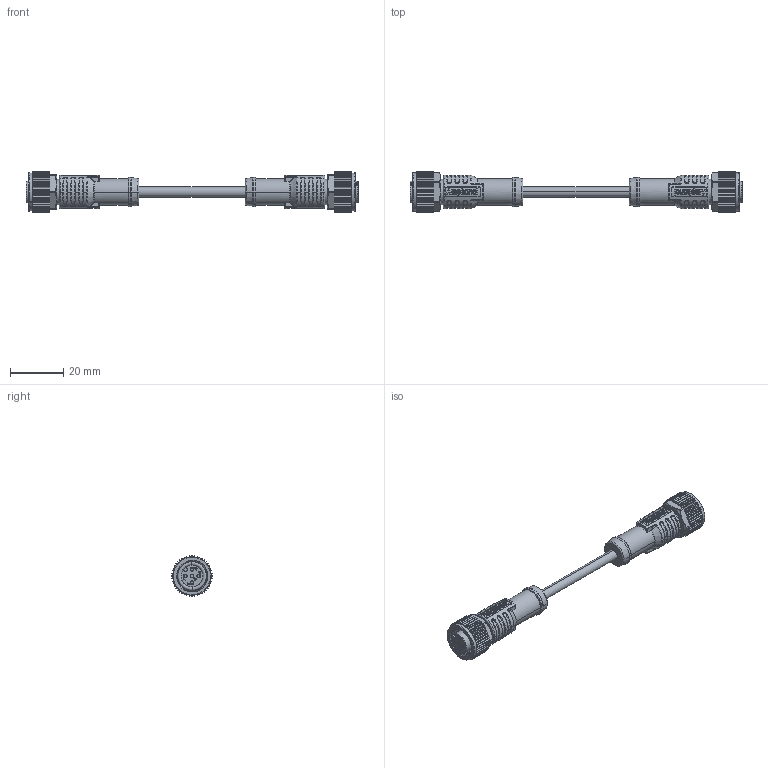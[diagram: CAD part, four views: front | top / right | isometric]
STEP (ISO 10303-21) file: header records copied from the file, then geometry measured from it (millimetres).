
FILE_DESCRIPTION((''),'2;1');
FILE_NAME('ASM_ASM','2019-09-26T',('L180083'),(''),'PRO/ENGINEER BY PARAMETRIC TECHNOLOGY CORPORATION, 2017170','PRO/ENGINEER BY PARAMETRIC TECHNOLOGY CORPORATION, 2017170','');
FILE_SCHEMA(('CONFIG_CONTROL_DESIGN'));
Length unit declared in the file: millimetre
Products named in the file (3): MSAP-04BFFM-SL8000; CABLE_AF0; ASM_ASM
Assembly tree (3 placements, depth 2):
  ASM_ASM
    MSAP-04BFFM-SL8000  x2
    CABLE_AF0
Bounding box: 125 x 15.3 x 15.3 mm (x, y, z)
Volume: 9349.1 mm3; surface area: 6375.6 mm2
Topology: 3 solids, 3 shells, 1516 faces, 3940 edges, 2506 vertices
Faces by surface type: plane 602, cylinder 326, extrusion 208, bspline 164, torus 128, cone 52, sphere 36
Entity records: 42471 total; most frequent: CARTESIAN_POINT 18468, ORIENTED_EDGE 3946, DIRECTION 3420, EDGE_CURVE 1973, VERTEX_POINT 1255, AXIS2_PLACEMENT_3D 1200, VECTOR 1020, LINE 916
